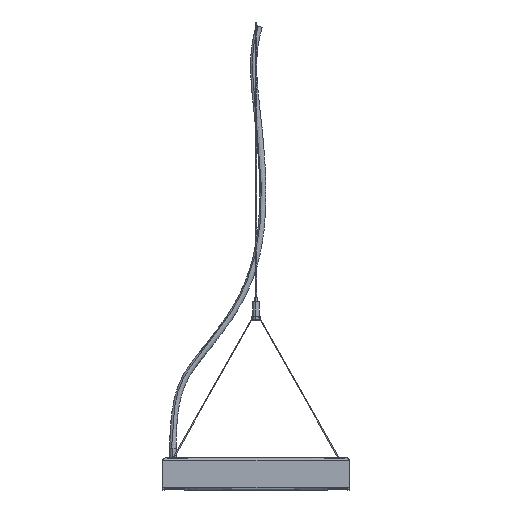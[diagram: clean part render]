
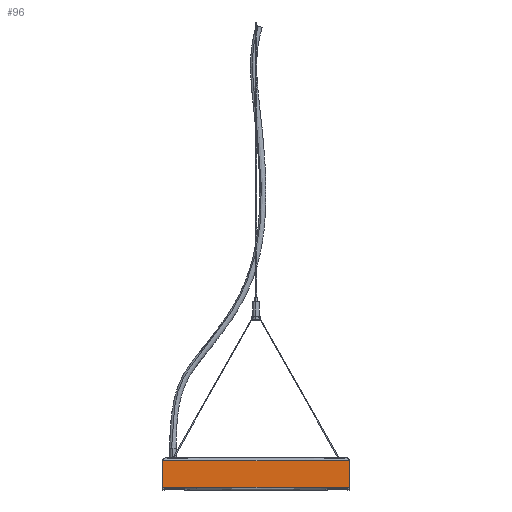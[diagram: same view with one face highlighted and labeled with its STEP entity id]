
A CAD part, left-side view. The second image highlights one B-rep face of the part: STEP entity #96.
In plain terms, the highlighted free-form (B-spline) face has degree [1, 1] with [2, 2] control points.
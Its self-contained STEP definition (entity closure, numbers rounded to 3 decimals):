
#96=ADVANCED_FACE('',(#198),#3181,.T.);
#198=FACE_OUTER_BOUND('',#300,.T.);
#300=EDGE_LOOP('',(#432,#433,#434,#435));
#432=ORIENTED_EDGE('',*,*,#2652,.F.);
#433=ORIENTED_EDGE('',*,*,#2678,.T.);
#434=ORIENTED_EDGE('',*,*,#2674,.F.);
#435=ORIENTED_EDGE('',*,*,#2679,.T.);
#881=PCURVE('',#3244,#1359);
#906=PCURVE('',#3246,#1384);
#910=PCURVE('',#3181,#1388);
#911=PCURVE('',#3181,#1389);
#912=PCURVE('',#3181,#1390);
#913=PCURVE('',#3181,#1391);
#955=PCURVE('',#3189,#1433);
#1003=PCURVE('',#3195,#1481);
#1359=DEFINITIONAL_REPRESENTATION('',(#1839),#6660);
#1384=DEFINITIONAL_REPRESENTATION('',(#1880),#6660);
#1388=DEFINITIONAL_REPRESENTATION('',(#1887),#6660);
#1389=DEFINITIONAL_REPRESENTATION('',(#1889),#6660);
#1390=DEFINITIONAL_REPRESENTATION('',(#1890),#6660);
#1391=DEFINITIONAL_REPRESENTATION('',(#1892),#6660);
#1433=DEFINITIONAL_REPRESENTATION('',(#1954),#6660);
#1481=DEFINITIONAL_REPRESENTATION('',(#2012),#6660);
#1838=B_SPLINE_CURVE_WITH_KNOTS('',1,(#4053,#4054),.UNSPECIFIED.,.F.,.F.,
(2,2),(0.,203.),.UNSPECIFIED.);
#1839=B_SPLINE_CURVE_WITH_KNOTS('',1,(#4055,#4056),.UNSPECIFIED.,.F.,.F.,
(2,2),(0.,203.),.UNSPECIFIED.);
#1879=B_SPLINE_CURVE_WITH_KNOTS('',1,(#4153,#4154),.UNSPECIFIED.,.F.,.F.,
(2,2),(0.,203.),.UNSPECIFIED.);
#1880=B_SPLINE_CURVE_WITH_KNOTS('',1,(#4155,#4156),.UNSPECIFIED.,.F.,.F.,
(2,2),(0.,203.),.UNSPECIFIED.);
#1887=B_SPLINE_CURVE_WITH_KNOTS('',1,(#4201,#4202),.UNSPECIFIED.,.F.,.F.,
(2,2),(0.,203.),.UNSPECIFIED.);
#1888=B_SPLINE_CURVE_WITH_KNOTS('',1,(#4203,#4204),.UNSPECIFIED.,.F.,.F.,
(2,2),(-29.,0.),.UNSPECIFIED.);
#1889=B_SPLINE_CURVE_WITH_KNOTS('',1,(#4205,#4206),.UNSPECIFIED.,.F.,.F.,
(2,2),(-29.,0.),.UNSPECIFIED.);
#1890=B_SPLINE_CURVE_WITH_KNOTS('',1,(#4207,#4208),.UNSPECIFIED.,.F.,.F.,
(2,2),(0.,203.),.UNSPECIFIED.);
#1891=B_SPLINE_CURVE_WITH_KNOTS('',1,(#4209,#4210),.UNSPECIFIED.,.F.,.F.,
(2,2),(0.,29.),.UNSPECIFIED.);
#1892=B_SPLINE_CURVE_WITH_KNOTS('',1,(#4211,#4212),.UNSPECIFIED.,.F.,.F.,
(2,2),(0.,29.),.UNSPECIFIED.);
#1954=B_SPLINE_CURVE_WITH_KNOTS('',1,(#4379,#4380),.UNSPECIFIED.,.F.,.F.,
(2,2),(-29.,0.),.UNSPECIFIED.);
#2012=B_SPLINE_CURVE_WITH_KNOTS('',1,(#4551,#4552),.UNSPECIFIED.,.F.,.F.,
(2,2),(0.,29.),.UNSPECIFIED.);
#2413=SURFACE_CURVE('',#1838,(#881,#910),.PCURVE_S1.);
#2435=SURFACE_CURVE('',#1879,(#906,#912),.PCURVE_S1.);
#2439=SURFACE_CURVE('',#1888,(#911,#955),.PCURVE_S1.);
#2440=SURFACE_CURVE('',#1891,(#913,#1003),.PCURVE_S1.);
#2652=EDGE_CURVE('',#3032,#3033,#2413,.T.);
#2674=EDGE_CURVE('',#3052,#3051,#2435,.T.);
#2678=EDGE_CURVE('',#3032,#3051,#2439,.T.);
#2679=EDGE_CURVE('',#3052,#3033,#2440,.T.);
#3032=VERTEX_POINT('',#3946);
#3033=VERTEX_POINT('',#3947);
#3051=VERTEX_POINT('',#3965);
#3052=VERTEX_POINT('',#3966);
#3181=B_SPLINE_SURFACE_WITH_KNOTS('',1,1,((#3489,#3490),(#3491,#3492)),
 .UNSPECIFIED.,.F.,.F.,.F.,(2,2),(2,2),(-20.42,223.42),(-0.02,
35.02),.UNSPECIFIED.);
#3189=B_SPLINE_SURFACE_WITH_KNOTS('',1,1,((#3539,#3540),(#3541,#3542)),
 .UNSPECIFIED.,.F.,.F.,.F.,(2,2),(2,2),(-113.12,1243.12),(-0.32,
38.32),.UNSPECIFIED.);
#3195=B_SPLINE_SURFACE_WITH_KNOTS('',1,1,((#3635,#3636),(#3637,#3638)),
 .UNSPECIFIED.,.F.,.F.,.F.,(2,2),(2,2),(-113.12,1243.12),(-0.32,
38.32),.UNSPECIFIED.);
#3244=(
BOUNDED_SURFACE()
B_SPLINE_SURFACE(2,1,((#3423,#3424),(#3425,#3426),(#3427,#3428),(#3429,
#3430),(#3431,#3432),(#3433,#3434),(#3435,#3436),(#3437,#3438),(#3439,#3440)),
 .UNSPECIFIED.,.T.,.F.,.F.)
B_SPLINE_SURFACE_WITH_KNOTS((3,2,2,2,3),(2,2),(0.,1.571,3.142,
4.712,6.283),(0.,243.84),.UNSPECIFIED.)
GEOMETRIC_REPRESENTATION_ITEM()
RATIONAL_B_SPLINE_SURFACE(((1.,1.),(0.707,0.707),
(1.,1.),(0.707,0.707),(1.,1.),(0.707,
0.707),(1.,1.),(0.707,0.707),(1.,1.)))
REPRESENTATION_ITEM('')
SURFACE()
);
#3246=(
BOUNDED_SURFACE()
B_SPLINE_SURFACE(2,1,((#3471,#3472),(#3473,#3474),(#3475,#3476),(#3477,
#3478),(#3479,#3480),(#3481,#3482),(#3483,#3484),(#3485,#3486),(#3487,#3488)),
 .UNSPECIFIED.,.T.,.F.,.F.)
B_SPLINE_SURFACE_WITH_KNOTS((3,2,2,2,3),(2,2),(0.,1.571,3.142,
4.712,6.283),(0.,243.84),.UNSPECIFIED.)
GEOMETRIC_REPRESENTATION_ITEM()
RATIONAL_B_SPLINE_SURFACE(((1.,1.),(0.707,0.707),
(1.,1.),(0.707,0.707),(1.,1.),(0.707,
0.707),(1.,1.),(0.707,0.707),(1.,1.)))
REPRESENTATION_ITEM('')
SURFACE()
);
#3423=CARTESIAN_POINT('',(-791.5,-121.92,-264.5));
#3424=CARTESIAN_POINT('',(-791.5,121.92,-264.5));
#3425=CARTESIAN_POINT('',(-791.5,-121.92,-267.5));
#3426=CARTESIAN_POINT('',(-791.5,121.92,-267.5));
#3427=CARTESIAN_POINT('',(-794.5,-121.92,-267.5));
#3428=CARTESIAN_POINT('',(-794.5,121.92,-267.5));
#3429=CARTESIAN_POINT('',(-797.5,-121.92,-267.5));
#3430=CARTESIAN_POINT('',(-797.5,121.92,-267.5));
#3431=CARTESIAN_POINT('',(-797.5,-121.92,-264.5));
#3432=CARTESIAN_POINT('',(-797.5,121.92,-264.5));
#3433=CARTESIAN_POINT('',(-797.5,-121.92,-261.5));
#3434=CARTESIAN_POINT('',(-797.5,121.92,-261.5));
#3435=CARTESIAN_POINT('',(-794.5,-121.92,-261.5));
#3436=CARTESIAN_POINT('',(-794.5,121.92,-261.5));
#3437=CARTESIAN_POINT('',(-791.5,-121.92,-261.5));
#3438=CARTESIAN_POINT('',(-791.5,121.92,-261.5));
#3439=CARTESIAN_POINT('',(-791.5,-121.92,-264.5));
#3440=CARTESIAN_POINT('',(-791.5,121.92,-264.5));
#3471=CARTESIAN_POINT('',(-791.5,-121.92,-235.5));
#3472=CARTESIAN_POINT('',(-791.5,121.92,-235.5));
#3473=CARTESIAN_POINT('',(-791.5,-121.92,-238.5));
#3474=CARTESIAN_POINT('',(-791.5,121.92,-238.5));
#3475=CARTESIAN_POINT('',(-794.5,-121.92,-238.5));
#3476=CARTESIAN_POINT('',(-794.5,121.92,-238.5));
#3477=CARTESIAN_POINT('',(-797.5,-121.92,-238.5));
#3478=CARTESIAN_POINT('',(-797.5,121.92,-238.5));
#3479=CARTESIAN_POINT('',(-797.5,-121.92,-235.5));
#3480=CARTESIAN_POINT('',(-797.5,121.92,-235.5));
#3481=CARTESIAN_POINT('',(-797.5,-121.92,-232.5));
#3482=CARTESIAN_POINT('',(-797.5,121.92,-232.5));
#3483=CARTESIAN_POINT('',(-794.5,-121.92,-232.5));
#3484=CARTESIAN_POINT('',(-794.5,121.92,-232.5));
#3485=CARTESIAN_POINT('',(-791.5,-121.92,-232.5));
#3486=CARTESIAN_POINT('',(-791.5,121.92,-232.5));
#3487=CARTESIAN_POINT('',(-791.5,-121.92,-235.5));
#3488=CARTESIAN_POINT('',(-791.5,121.92,-235.5));
#3489=CARTESIAN_POINT('',(-797.5,-121.92,-232.48));
#3490=CARTESIAN_POINT('',(-797.5,-121.92,-267.52));
#3491=CARTESIAN_POINT('',(-797.5,121.92,-232.48));
#3492=CARTESIAN_POINT('',(-797.5,121.92,-267.52));
#3539=CARTESIAN_POINT('',(445.62,-101.5,-232.18));
#3540=CARTESIAN_POINT('',(445.62,-101.5,-270.82));
#3541=CARTESIAN_POINT('',(-910.62,-101.5,-232.18));
#3542=CARTESIAN_POINT('',(-910.62,-101.5,-270.82));
#3635=CARTESIAN_POINT('',(-910.62,101.5,-232.18));
#3636=CARTESIAN_POINT('',(-910.62,101.5,-270.82));
#3637=CARTESIAN_POINT('',(445.62,101.5,-232.18));
#3638=CARTESIAN_POINT('',(445.62,101.5,-270.82));
#3946=CARTESIAN_POINT('',(-797.5,-101.5,-264.5));
#3947=CARTESIAN_POINT('',(-797.5,101.5,-264.5));
#3965=CARTESIAN_POINT('',(-797.5,-101.5,-235.5));
#3966=CARTESIAN_POINT('',(-797.5,101.5,-235.5));
#4053=CARTESIAN_POINT('',(-797.5,-101.5,-264.5));
#4054=CARTESIAN_POINT('',(-797.5,101.5,-264.5));
#4055=CARTESIAN_POINT('',(3.142,20.42));
#4056=CARTESIAN_POINT('',(3.142,223.42));
#4153=CARTESIAN_POINT('',(-797.5,101.5,-235.5));
#4154=CARTESIAN_POINT('',(-797.5,-101.5,-235.5));
#4155=CARTESIAN_POINT('',(3.142,223.42));
#4156=CARTESIAN_POINT('',(3.142,20.42));
#4201=CARTESIAN_POINT('',(0.,32.));
#4202=CARTESIAN_POINT('',(203.,32.));
#4203=CARTESIAN_POINT('',(-797.5,-101.5,-264.5));
#4204=CARTESIAN_POINT('',(-797.5,-101.5,-235.5));
#4205=CARTESIAN_POINT('',(0.,32.));
#4206=CARTESIAN_POINT('',(0.,3.));
#4207=CARTESIAN_POINT('',(203.,3.));
#4208=CARTESIAN_POINT('',(0.,3.));
#4209=CARTESIAN_POINT('',(-797.5,101.5,-235.5));
#4210=CARTESIAN_POINT('',(-797.5,101.5,-264.5));
#4211=CARTESIAN_POINT('',(203.,3.));
#4212=CARTESIAN_POINT('',(203.,32.));
#4379=CARTESIAN_POINT('',(1130.,32.));
#4380=CARTESIAN_POINT('',(1130.,3.));
#4551=CARTESIAN_POINT('',(0.,3.));
#4552=CARTESIAN_POINT('',(0.,32.));
#6660=(
GEOMETRIC_REPRESENTATION_CONTEXT(2)
PARAMETRIC_REPRESENTATION_CONTEXT()
REPRESENTATION_CONTEXT('pspace','')
);
